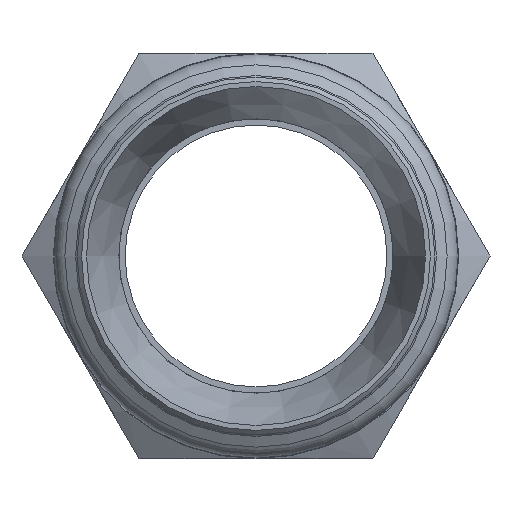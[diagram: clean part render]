
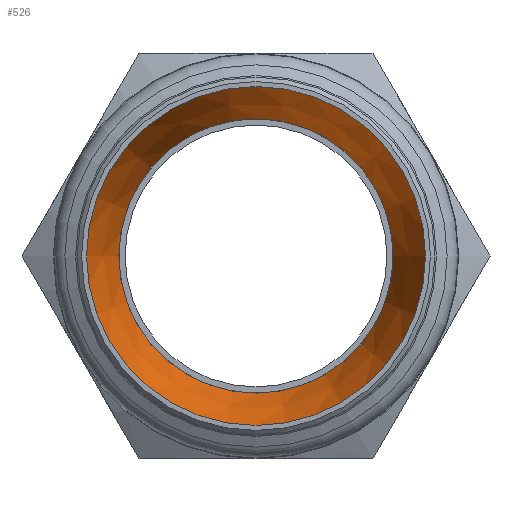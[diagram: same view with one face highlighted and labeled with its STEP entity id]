
A CAD part, left-side view. The second image highlights one B-rep face of the part: STEP entity #526.
In plain terms, the highlighted conical face has half-angle 20 degrees and reference radius 24.587 mm.
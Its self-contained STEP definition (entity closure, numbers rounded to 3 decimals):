
#140=CARTESIAN_POINT('',(-41.0,27.175,0.0));
#141=VERTEX_POINT('',#140);
#142=CARTESIAN_POINT('',(-41.0,0.,0.0));
#143=DIRECTION('',(1.0,0.0,0.0));
#144=DIRECTION('',(0.0,1.0,0.0));
#145=AXIS2_PLACEMENT_3D('',#142,#143,#144);
#146=CIRCLE('',#145,27.175);
#147=EDGE_CURVE('',#141,#141,#146,.T.);
#500=CARTESIAN_POINT('',(-26.782,22.,0.0));
#501=VERTEX_POINT('',#500);
#502=CARTESIAN_POINT('',(-26.782,0.,0.0));
#503=DIRECTION('',(1.0,0.0,0.0));
#504=DIRECTION('',(0.0,1.0,0.0));
#505=AXIS2_PLACEMENT_3D('',#502,#503,#504);
#506=CIRCLE('',#505,22.0);
#507=EDGE_CURVE('',#501,#501,#506,.T.);
#515=CARTESIAN_POINT('',(-33.891,0.,0.0));
#516=DIRECTION('',(-1.0,0.,0.0));
#517=DIRECTION('',(0.0,1.0,0.0));
#518=AXIS2_PLACEMENT_3D('',#515,#516,#517);
#519=CONICAL_SURFACE('',#518,24.588,20.);
#520=ORIENTED_EDGE('',*,*,#147,.F.);
#521=EDGE_LOOP('',(#520));
#522=FACE_OUTER_BOUND('',#521,.T.);
#523=ORIENTED_EDGE('',*,*,#507,.T.);
#524=EDGE_LOOP('',(#523));
#525=FACE_BOUND('',#524,.T.);
#526=ADVANCED_FACE('',(#522,#525),#519,.F.);
